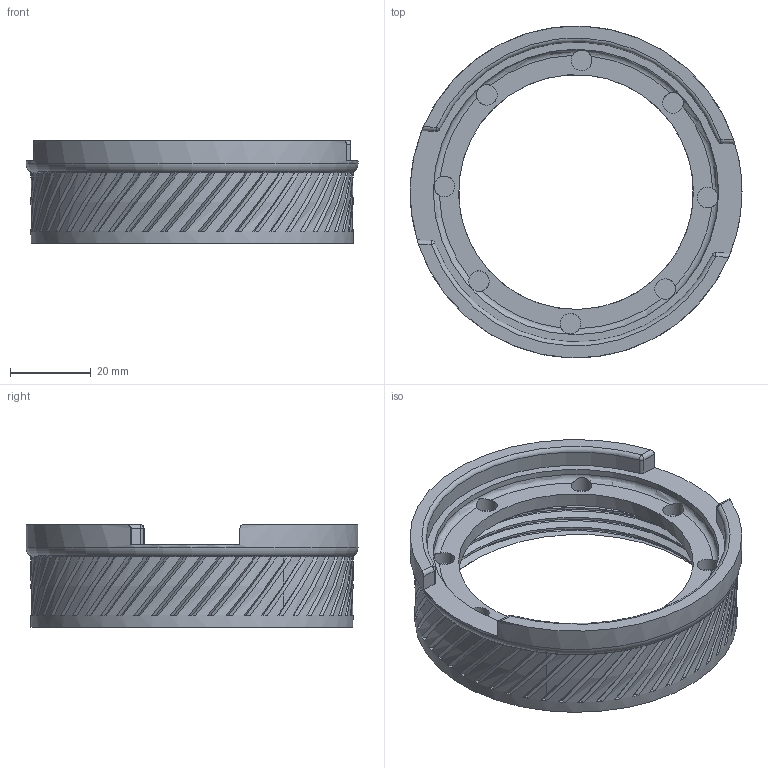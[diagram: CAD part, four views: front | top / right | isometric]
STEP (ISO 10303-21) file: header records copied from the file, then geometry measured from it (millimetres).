
FILE_DESCRIPTION(/* description */ ('STEP AP242','CAx-IF Rec.Pracs.---Representation and Presentation of Product Manufacturing Information (PMI)---4.0---2014-10-13','CAx-IF Rec.Pracs.---3D Tessellated Geometry---0.4---2014-09-14','2;1'),/* implementation_level */ '2;1');
FILE_NAME(/* name */ '64692747cac4670533c213ea',/* time_stamp */ '2023-05-20T20:02:15Z',/* author */ (''),/* organization */ (''),/* preprocessor_version */ 'ST-DEVELOPER v19.4',/* originating_system */ ' ',/* authorisation */ ' ');
FILE_SCHEMA (('AP242_MANAGED_MODEL_BASED_3D_ENGINEERING_MIM_LF { 1 0 10303 442 1 1 4 }'));
Length unit declared in the file: metre
Products named in the file (1): Base 27mm Magnet Lug
Bounding box: 82 x 82 x 25.4 mm (x, y, z)
Volume: 29592.8 mm3; surface area: 18357.6 mm2
Topology: 1 solids, 1 shells, 309 faces, 796 edges, 488 vertices
Faces by surface type: plane 136, bspline 135, cylinder 26, torus 4, cone 4, sphere 4
Full cylindrical faces by diameter (mm): 5.1 x8, 58 x1, 70.5 x1, 79.6 x1, 82 x1
Entity records: 15243 total; most frequent: CARTESIAN_POINT 9445, ORIENTED_EDGE 1504, DIRECTION 848, EDGE_CURVE 752, VERTEX_POINT 467, AXIS2_PLACEMENT_3D 395, EDGE_LOOP 327, FACE_BOUND 327
